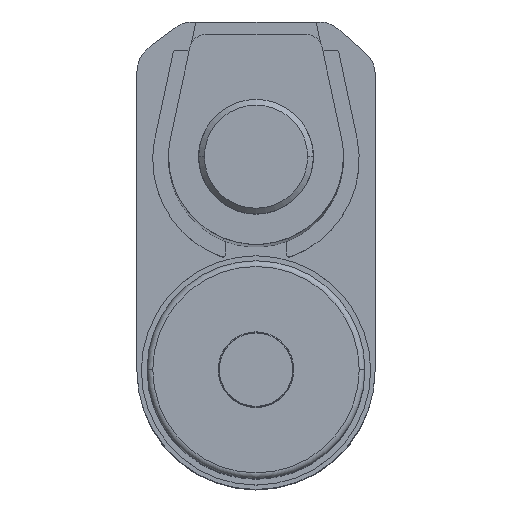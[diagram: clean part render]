
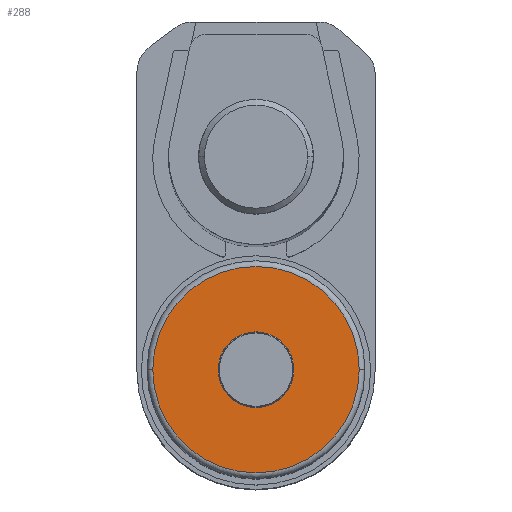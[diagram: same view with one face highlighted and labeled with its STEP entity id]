
A CAD part, top view. The second image highlights one B-rep face of the part: STEP entity #288.
In plain terms, the highlighted planar face has unit normal (0, 0, 1).
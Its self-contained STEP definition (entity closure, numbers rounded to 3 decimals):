
#121 = AXIS2_PLACEMENT_3D ( 'NONE', #966, #3994, #1412 ) ;
#240 = CIRCLE ( 'NONE', #632, 18. ) ;
#288 = ADVANCED_FACE ( 'NONE', ( #5458, #1016 ), #4279, .T. ) ;
#292 = DIRECTION ( 'NONE',  ( 1., 0., 0. ) ) ;
#438 = EDGE_CURVE ( 'NONE', #1091, #1843, #4798, .T. ) ;
#578 = DIRECTION ( 'NONE',  ( 0., 0., 1. ) ) ;
#619 = EDGE_CURVE ( 'NONE', #3960, #2765, #2832, .T. ) ;
#632 = AXIS2_PLACEMENT_3D ( 'NONE', #3178, #578, #3621 ) ;
#834 = ORIENTED_EDGE ( 'NONE', *, *, #4287, .T. ) ;
#919 = CIRCLE ( 'NONE', #5588, 6.6 ) ;
#966 = CARTESIAN_POINT ( 'NONE',  ( 0., -20.751, 122. ) ) ;
#1016 = FACE_OUTER_BOUND ( 'NONE', #1668, .T. ) ;
#1091 = VERTEX_POINT ( 'NONE', #1132 ) ;
#1106 = ORIENTED_EDGE ( 'NONE', *, *, #3884, .T. ) ;
#1132 = CARTESIAN_POINT ( 'NONE',  ( -6.6, -20.751, 122. ) ) ;
#1412 = DIRECTION ( 'NONE',  ( 1., 0., 0. ) ) ;
#1668 = EDGE_LOOP ( 'NONE', ( #1106, #2723 ) ) ;
#1699 = DIRECTION ( 'NONE',  ( 0., 0., 1. ) ) ;
#1808 = ORIENTED_EDGE ( 'NONE', *, *, #438, .T. ) ;
#1843 = VERTEX_POINT ( 'NONE', #4711 ) ;
#1852 = EDGE_LOOP ( 'NONE', ( #834, #1808 ) ) ;
#2360 = CARTESIAN_POINT ( 'NONE',  ( -18., -20.751, 122. ) ) ;
#2391 = CARTESIAN_POINT ( 'NONE',  ( 0., -20.751, 122. ) ) ;
#2478 = AXIS2_PLACEMENT_3D ( 'NONE', #5460, #2885, #292 ) ;
#2539 = CARTESIAN_POINT ( 'NONE',  ( 0., -20.751, 122. ) ) ;
#2723 = ORIENTED_EDGE ( 'NONE', *, *, #619, .T. ) ;
#2765 = VERTEX_POINT ( 'NONE', #4889 ) ;
#2822 = DIRECTION ( 'NONE',  ( 1., 0., 0. ) ) ;
#2832 = CIRCLE ( 'NONE', #2478, 18. ) ;
#2885 = DIRECTION ( 'NONE',  ( 0., 0., 1. ) ) ;
#3178 = CARTESIAN_POINT ( 'NONE',  ( 0., -20.751, 122. ) ) ;
#3430 = AXIS2_PLACEMENT_3D ( 'NONE', #2539, #1699, #4709 ) ;
#3621 = DIRECTION ( 'NONE',  ( 1., 0., 0. ) ) ;
#3884 = EDGE_CURVE ( 'NONE', #2765, #3960, #240, .T. ) ;
#3960 = VERTEX_POINT ( 'NONE', #2360 ) ;
#3994 = DIRECTION ( 'NONE',  ( 0., 0., -1. ) ) ;
#4279 = PLANE ( 'NONE',  #3430 ) ;
#4287 = EDGE_CURVE ( 'NONE', #1843, #1091, #919, .T. ) ;
#4709 = DIRECTION ( 'NONE',  ( 1., 0., 0. ) ) ;
#4711 = CARTESIAN_POINT ( 'NONE',  ( 6.6, -20.751, 122. ) ) ;
#4798 = CIRCLE ( 'NONE', #121, 6.6 ) ;
#4889 = CARTESIAN_POINT ( 'NONE',  ( 18., -20.751, 122. ) ) ;
#5392 = DIRECTION ( 'NONE',  ( 0., 0., -1. ) ) ;
#5458 = FACE_BOUND ( 'NONE', #1852, .T. ) ;
#5460 = CARTESIAN_POINT ( 'NONE',  ( 0., -20.751, 122. ) ) ;
#5588 = AXIS2_PLACEMENT_3D ( 'NONE', #2391, #5392, #2822 ) ;
